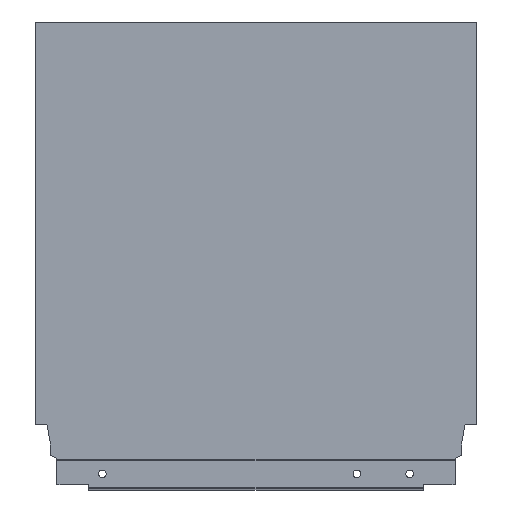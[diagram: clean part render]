
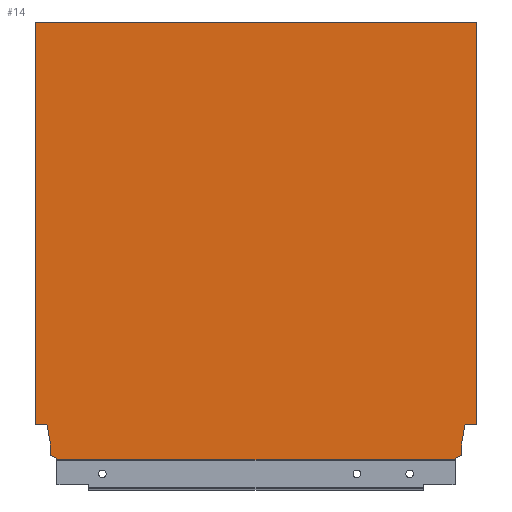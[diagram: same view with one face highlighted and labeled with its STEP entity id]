
A CAD part, top view. The second image highlights one B-rep face of the part: STEP entity #14.
In plain terms, the highlighted planar face has unit normal (0, 0, 1).
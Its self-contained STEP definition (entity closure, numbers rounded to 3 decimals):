
#14 = ADVANCED_FACE ( 'NONE', ( #506 ), #966, .T. ) ;
#147 = EDGE_CURVE ( 'NONE', #1149, #1289, #674, .T. ) ;
#149 = EDGE_CURVE ( 'NONE', #1144, #1247, #670, .T. ) ;
#151 = EDGE_CURVE ( 'NONE', #1247, #1262, #666, .T. ) ;
#152 = EDGE_CURVE ( 'NONE', #1289, #1144, #664, .T. ) ;
#153 = EDGE_CURVE ( 'NONE', #1262, #1240, #662, .T. ) ;
#154 = EDGE_CURVE ( 'NONE', #1240, #1258, #660, .T. ) ;
#155 = EDGE_CURVE ( 'NONE', #1149, #1203, #658, .T. ) ;
#156 = EDGE_CURVE ( 'NONE', #1258, #1263, #679, .T. ) ;
#157 = EDGE_CURVE ( 'NONE', #1235, #1219, #654, .T. ) ;
#158 = EDGE_CURVE ( 'NONE', #1219, #1209, #652, .T. ) ;
#159 = EDGE_CURVE ( 'NONE', #1209, #1297, #650, .T. ) ;
#160 = EDGE_CURVE ( 'NONE', #1297, #1203, #648, .T. ) ;
#161 = EDGE_CURVE ( 'NONE', #1294, #1263, #646, .T. ) ;
#164 = EDGE_CURVE ( 'NONE', #1294, #1235, #671, .T. ) ;
#196 = AXIS2_PLACEMENT_3D ( 'NONE', #952, #915, #909 ) ;
#377 = EDGE_LOOP ( 'NONE', ( #619, #618, #617, #616, #615, #614, #613, #612, #611, #610, #609, #608, #607, #606 ) ) ;
#506 = FACE_OUTER_BOUND ( 'NONE', #377, .T. ) ;
#606 = ORIENTED_EDGE ( 'NONE', *, *, #147, .F. ) ;
#607 = ORIENTED_EDGE ( 'NONE', *, *, #152, .F. ) ;
#608 = ORIENTED_EDGE ( 'NONE', *, *, #149, .F. ) ;
#609 = ORIENTED_EDGE ( 'NONE', *, *, #151, .F. ) ;
#610 = ORIENTED_EDGE ( 'NONE', *, *, #153, .F. ) ;
#611 = ORIENTED_EDGE ( 'NONE', *, *, #154, .F. ) ;
#612 = ORIENTED_EDGE ( 'NONE', *, *, #156, .F. ) ;
#613 = ORIENTED_EDGE ( 'NONE', *, *, #161, .T. ) ;
#614 = ORIENTED_EDGE ( 'NONE', *, *, #164, .F. ) ;
#615 = ORIENTED_EDGE ( 'NONE', *, *, #157, .F. ) ;
#616 = ORIENTED_EDGE ( 'NONE', *, *, #158, .F. ) ;
#617 = ORIENTED_EDGE ( 'NONE', *, *, #159, .F. ) ;
#618 = ORIENTED_EDGE ( 'NONE', *, *, #160, .F. ) ;
#619 = ORIENTED_EDGE ( 'NONE', *, *, #155, .T. ) ;
#645 = VECTOR ( 'NONE', #1007, 1000. ) ;
#646 = LINE ( 'NONE', #1008, #645 ) ;
#647 = VECTOR ( 'NONE', #1009, 1000. ) ;
#648 = LINE ( 'NONE', #1010, #647 ) ;
#649 = VECTOR ( 'NONE', #1011, 1000. ) ;
#650 = LINE ( 'NONE', #1013, #649 ) ;
#651 = VECTOR ( 'NONE', #1014, 1000. ) ;
#652 = LINE ( 'NONE', #1016, #651 ) ;
#653 = VECTOR ( 'NONE', #1018, 1000. ) ;
#654 = LINE ( 'NONE', #1019, #653 ) ;
#656 = VECTOR ( 'NONE', #1021, 1000. ) ;
#657 = VECTOR ( 'NONE', #1023, 1000. ) ;
#658 = LINE ( 'NONE', #1024, #657 ) ;
#659 = VECTOR ( 'NONE', #1026, 1000. ) ;
#660 = LINE ( 'NONE', #1027, #659 ) ;
#661 = VECTOR ( 'NONE', #1028, 1000. ) ;
#662 = LINE ( 'NONE', #1031, #661 ) ;
#663 = VECTOR ( 'NONE', #1033, 1000. ) ;
#664 = LINE ( 'NONE', #1034, #663 ) ;
#665 = VECTOR ( 'NONE', #1036, 1000. ) ;
#666 = LINE ( 'NONE', #1037, #665 ) ;
#669 = VECTOR ( 'NONE', #1041, 1000. ) ;
#670 = LINE ( 'NONE', #1042, #669 ) ;
#671 = LINE ( 'NONE', #999, #677 ) ;
#673 = VECTOR ( 'NONE', #1047, 1000. ) ;
#674 = LINE ( 'NONE', #1048, #673 ) ;
#677 = VECTOR ( 'NONE', #998, 1000. ) ;
#679 = LINE ( 'NONE', #1046, #656 ) ;
#906 = CARTESIAN_POINT ( 'NONE',  ( -255.94, 21.2, 8. ) ) ;
#907 = CARTESIAN_POINT ( 'NONE',  ( -249.996, 0., 8. ) ) ;
#908 = CARTESIAN_POINT ( 'NONE',  ( 0., 260.7, 8. ) ) ;
#909 = DIRECTION ( 'NONE',  ( 1., 0., 0. ) ) ;
#915 = DIRECTION ( 'NONE',  ( 0., 0., 1. ) ) ;
#919 = CARTESIAN_POINT ( 'NONE',  ( -13.004, 0., 8. ) ) ;
#920 = CARTESIAN_POINT ( 'NONE',  ( -8.9, 10.765, 8. ) ) ;
#921 = CARTESIAN_POINT ( 'NONE',  ( -13.004, 1.146, 8. ) ) ;
#926 = CARTESIAN_POINT ( 'NONE',  ( -7.06, 21.2, 8. ) ) ;
#928 = CARTESIAN_POINT ( 'NONE',  ( -8.9, 2.64, 8. ) ) ;
#931 = CARTESIAN_POINT ( 'NONE',  ( -249.996, 1.146, 8. ) ) ;
#936 = CARTESIAN_POINT ( 'NONE',  ( -254.1, 2.64, 8. ) ) ;
#941 = CARTESIAN_POINT ( 'NONE',  ( -263., 260.7, 8. ) ) ;
#942 = CARTESIAN_POINT ( 'NONE',  ( 0., 21.2, 8. ) ) ;
#943 = CARTESIAN_POINT ( 'NONE',  ( -254.1, 10.765, 8. ) ) ;
#946 = CARTESIAN_POINT ( 'NONE',  ( -263., 21.2, 8. ) ) ;
#952 = CARTESIAN_POINT ( 'NONE',  ( -263., 0., 8. ) ) ;
#966 = PLANE ( 'NONE',  #196 ) ;
#998 = DIRECTION ( 'NONE',  ( 0., 1., 0. ) ) ;
#999 = CARTESIAN_POINT ( 'NONE',  ( -249.996, 1.146, 8. ) ) ;
#1007 = DIRECTION ( 'NONE',  ( 1., 0., 0. ) ) ;
#1008 = CARTESIAN_POINT ( 'NONE',  ( -263., 0., 8. ) ) ;
#1009 = DIRECTION ( 'NONE',  ( -1., 0., 0. ) ) ;
#1010 = CARTESIAN_POINT ( 'NONE',  ( -268., 21.2, 8. ) ) ;
#1011 = DIRECTION ( 'NONE',  ( -0.174, 0.985, 0. ) ) ;
#1013 = CARTESIAN_POINT ( 'NONE',  ( -255.94, 21.2, 8. ) ) ;
#1014 = DIRECTION ( 'NONE',  ( 0., 1., 0. ) ) ;
#1016 = CARTESIAN_POINT ( 'NONE',  ( -254.1, 10.765, 8. ) ) ;
#1018 = DIRECTION ( 'NONE',  ( -0.94, 0.342, 0. ) ) ;
#1019 = CARTESIAN_POINT ( 'NONE',  ( -254.1, 2.64, 8. ) ) ;
#1021 = DIRECTION ( 'NONE',  ( 0., -1., 0. ) ) ;
#1023 = DIRECTION ( 'NONE',  ( 0., -1., 0. ) ) ;
#1024 = CARTESIAN_POINT ( 'NONE',  ( -263., 0., 8. ) ) ;
#1026 = DIRECTION ( 'NONE',  ( -0.94, -0.342, 0. ) ) ;
#1027 = CARTESIAN_POINT ( 'NONE',  ( -8.9, 2.64, 8. ) ) ;
#1028 = DIRECTION ( 'NONE',  ( 0., -1., 0. ) ) ;
#1031 = CARTESIAN_POINT ( 'NONE',  ( -8.9, 10.765, 8. ) ) ;
#1033 = DIRECTION ( 'NONE',  ( 0., -1., 0. ) ) ;
#1034 = CARTESIAN_POINT ( 'NONE',  ( 0., 0., 8. ) ) ;
#1036 = DIRECTION ( 'NONE',  ( -0.174, -0.985, 0. ) ) ;
#1037 = CARTESIAN_POINT ( 'NONE',  ( -7.06, 21.2, 8. ) ) ;
#1041 = DIRECTION ( 'NONE',  ( -1., 0., 0. ) ) ;
#1042 = CARTESIAN_POINT ( 'NONE',  ( 0., 21.2, 8. ) ) ;
#1046 = CARTESIAN_POINT ( 'NONE',  ( -13.004, 1.146, 8. ) ) ;
#1047 = DIRECTION ( 'NONE',  ( 1., 0., 0. ) ) ;
#1048 = CARTESIAN_POINT ( 'NONE',  ( -263., 260.7, 8. ) ) ;
#1144 = VERTEX_POINT ( 'NONE', #942 ) ;
#1149 = VERTEX_POINT ( 'NONE', #941 ) ;
#1203 = VERTEX_POINT ( 'NONE', #946 ) ;
#1209 = VERTEX_POINT ( 'NONE', #943 ) ;
#1219 = VERTEX_POINT ( 'NONE', #936 ) ;
#1235 = VERTEX_POINT ( 'NONE', #931 ) ;
#1240 = VERTEX_POINT ( 'NONE', #928 ) ;
#1247 = VERTEX_POINT ( 'NONE', #926 ) ;
#1258 = VERTEX_POINT ( 'NONE', #921 ) ;
#1262 = VERTEX_POINT ( 'NONE', #920 ) ;
#1263 = VERTEX_POINT ( 'NONE', #919 ) ;
#1289 = VERTEX_POINT ( 'NONE', #908 ) ;
#1294 = VERTEX_POINT ( 'NONE', #907 ) ;
#1297 = VERTEX_POINT ( 'NONE', #906 ) ;
